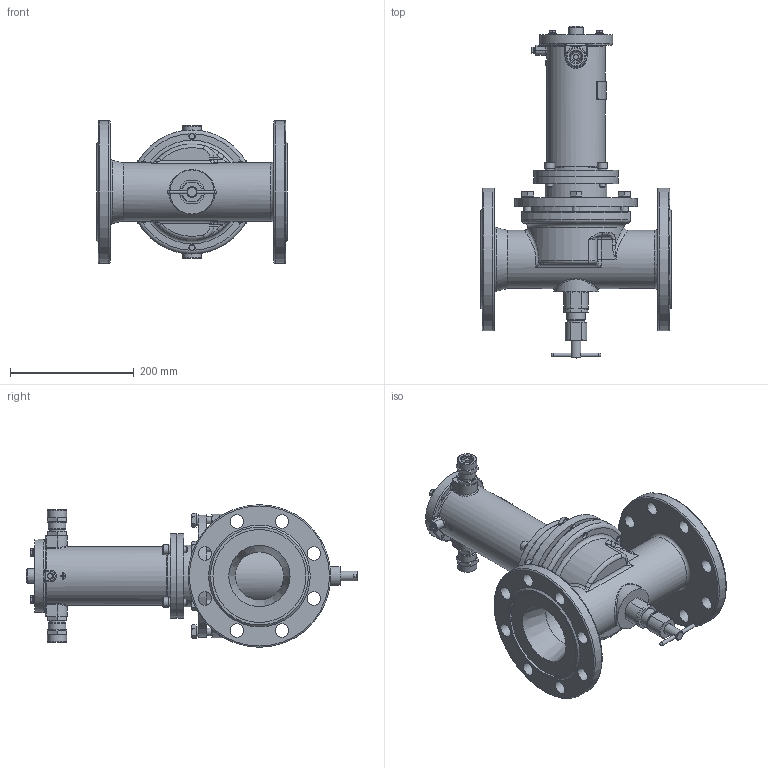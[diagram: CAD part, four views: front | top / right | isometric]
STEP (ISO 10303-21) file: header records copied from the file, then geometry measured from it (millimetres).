
FILE_DESCRIPTION(('STEP AP203'), '1');
FILE_NAME('ÑÅÍÑ DN100PN25-Â-ÑÂ.stp', '2018-09-19T08:41:53', ('Îðëîâ Å.Â.'), ('ÎÎÎ ÍÏÏ Ñåíñîð'), 'ASCON STEP Converter 1.3', 'Kompas 3D', '');
FILE_SCHEMA(('CONFIG_CONTROL_DESIGN','SUPPORT_RESOURCE_SCHEMA'));
Length unit declared in the file: millimetre
Products named in the file (1): 33
Bounding box: 308 x 535.5 x 230 mm (x, y, z)
Volume: 3813926 mm3; surface area: 822142.5 mm2
Topology: 3 solids, 18 shells, 2131 faces, 5630 edges, 3634 vertices
Faces by surface type: cylinder 1042, plane 809, cone 151, bspline 56, torus 49, extrusion 16, sphere 8
Full cylindrical faces by diameter (mm): 3.5 x2, 4.134 x1, 4.917 x4, 5 x1, 6 x9, 6.5 x4, 8 x8, 8.2 x1, 10 x9, 10.106 x6, 11 x5, 12 x10, 13 x8, 16 x6, 17 x2, 18 x1, 18.632 x2, 20 x3, 22 x18, 22.376 x2, 23 x1, 23.5 x2, 24 x3, 24.5 x2, 26 x4, 26.376 x2, 27.8 x1, 28 x3, 28.5 x2, 30 x2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
Entity records: 84441 total; most frequent: CARTESIAN_POINT 30702, DIRECTION 11573, ORIENTED_EDGE 11198, EDGE_CURVE 5599, AXIS2_PLACEMENT_3D 4461, VERTEX_POINT 3634, VECTOR 2651, LINE 2635
